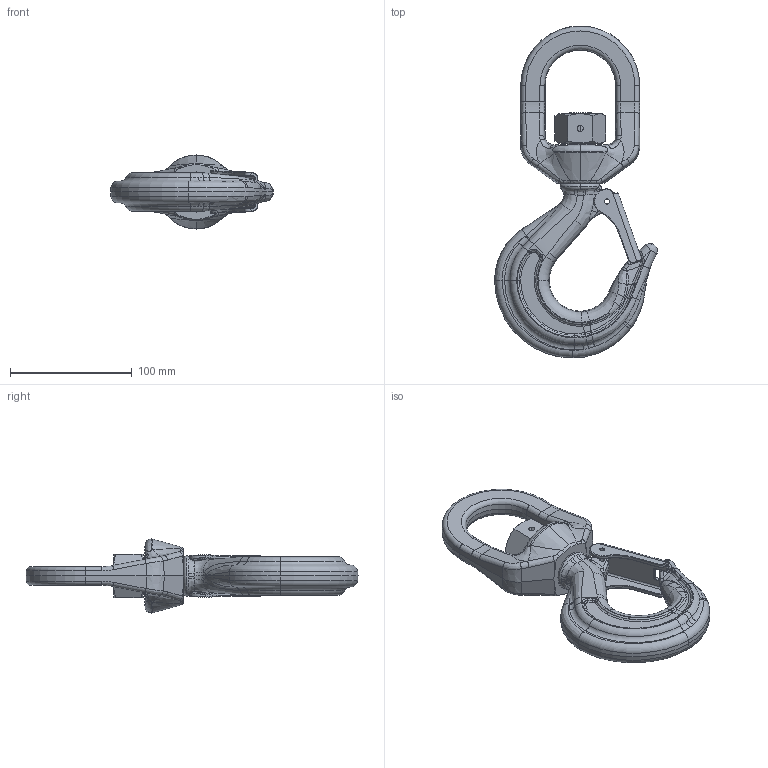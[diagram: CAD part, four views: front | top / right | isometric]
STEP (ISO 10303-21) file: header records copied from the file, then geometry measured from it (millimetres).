
FILE_DESCRIPTION(('STEP AP214'),'1');
FILE_NAME('c7g054.stp','2022-03-22T10:20:37',('TraceParts'),('TraceParts S.A.'),'Spatial InterOp 3D',' ',' ');
FILE_SCHEMA(('AUTOMOTIVE_DESIGN { 1 0 10303 214 1 1 1 1 }'));
Length unit declared in the file: millimetre
Products named in the file (1): c7g054_1
Bounding box: 134 x 273.2 x 61 mm (x, y, z)
Volume: 415489.6 mm3; surface area: 75267.6 mm2
Topology: 4 solids, 4 shells, 732 faces, 1756 edges, 1033 vertices
Faces by surface type: bspline 323, plane 127, cylinder 119, torus 89, cone 72, sphere 2
Full cylindrical faces by diameter (mm): 5 x2
Entity records: 52026 total; most frequent: CARTESIAN_POINT 36735, ORIENTED_EDGE 3498, DIRECTION 2863, EDGE_CURVE 1749, AXIS2_PLACEMENT_3D 1196, VERTEX_POINT 1033, EDGE_LOOP 752, ADVANCED_FACE 732
